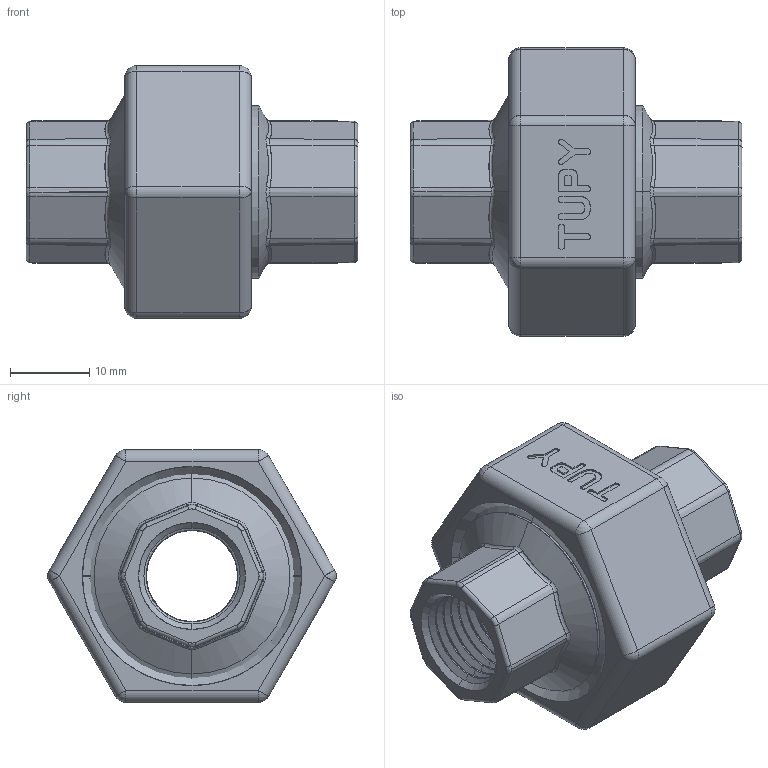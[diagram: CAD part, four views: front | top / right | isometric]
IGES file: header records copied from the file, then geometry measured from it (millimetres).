
Start section: SolidWorks IGES file using analytic representation for surfaces
Global section: file name: C:\Users\Joel Rosa\Desktop\Tubulação\12-62-X\12-62-002.IGS; native system: SolidWorks 2011; preprocessor: SolidWorks 2011; author: Joel Rosa; date: 130721.134834; units: millimetre
Bounding box: 42 x 36.49 x 32 mm (x, y, z)
Surface area: 11308.3 mm2 (no closed solid volume)
Topology: 0 solids, 0 shells, 501 faces, 3384 edges, 3376 vertices
Faces by surface type: bspline 306, revolution 195
